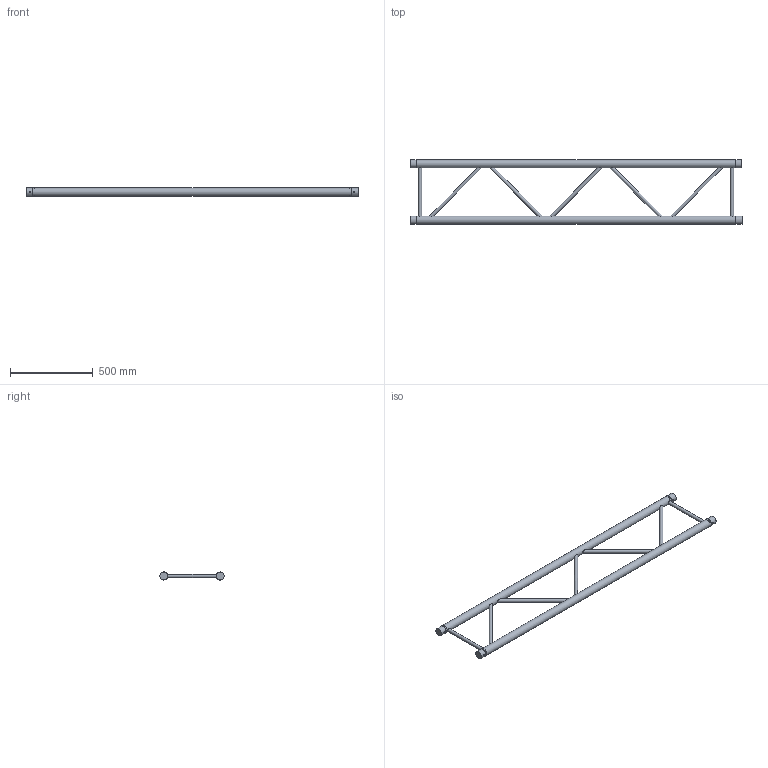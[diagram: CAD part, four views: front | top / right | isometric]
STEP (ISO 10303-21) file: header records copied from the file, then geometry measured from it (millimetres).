
FILE_DESCRIPTION(/* description */ (''),/* implementation_level */ '2;1');
FILE_NAME(/* name */ 'C:\Users\stephan\Desktop\Nieuwe map\H40L\111050155.stp',/* time_stamp */ '2016-09-12T12:52:23+02:00',/* author */ ('Stephan'),/* organization */ (''),/* preprocessor_version */ 'ST-DEVELOPER v15.6',/* originating_system */ 'Autodesk Inventor 2015',/* authorisation */ '');
FILE_SCHEMA (('AUTOMOTIVE_DESIGN { 1 0 10303 214 3 1 1 }'));
Length unit declared in the file: millimetre
Products named in the file (1): 160026984
Bounding box: 2000 x 387.3 x 48.3 mm (x, y, z)
Volume: 2796901.8 mm3; surface area: 1313540 mm2
Topology: 9 solids, 11 shells, 61 faces, 102 edges, 67 vertices
Faces by surface type: plane 34, cylinder 23, cone 4
Full cylindrical faces by diameter (mm): 10 x4, 20 x7, 41.8 x4, 42.3 x2, 48.3 x6
Entity records: 1673 total; most frequent: CARTESIAN_POINT 470, DIRECTION 220, ORIENTED_EDGE 140, EDGE_LOOP 108, AXIS2_PLACEMENT_3D 108, STYLED_ITEM 67, EDGE_CURVE 66, VERTEX_POINT 62
